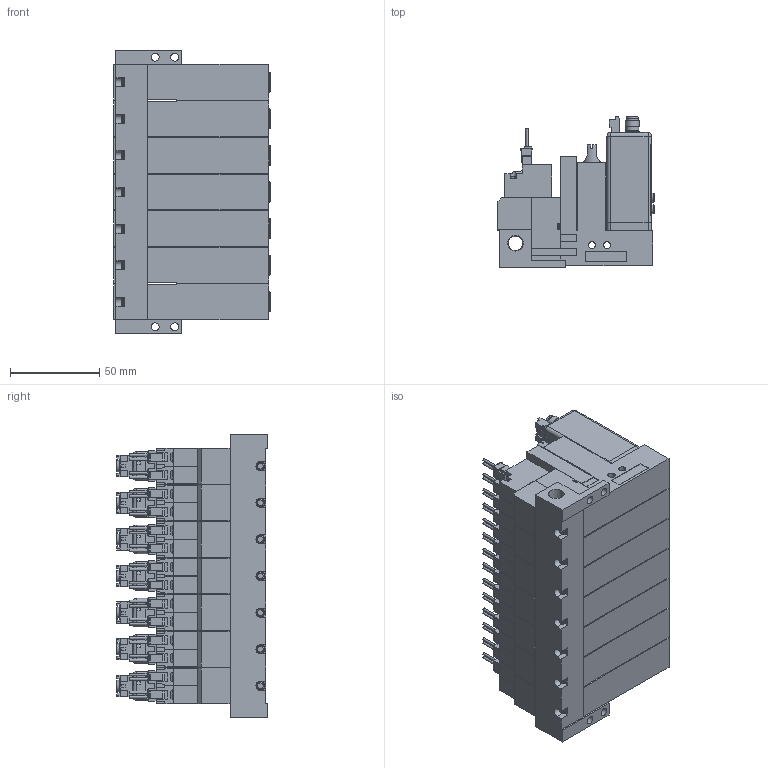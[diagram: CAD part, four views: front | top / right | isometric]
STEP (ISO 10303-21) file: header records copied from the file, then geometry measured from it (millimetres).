
FILE_DESCRIPTION(('STEP AP203'),'1');
FILE_NAME('22_22PL5BLR707.stp','2025-06-12T05:07:16',(' '),(' '),'Spatial InterOp 3D',' ',' ');
FILE_SCHEMA(('CONFIG_CONTROL_DESIGN'));
Length unit declared in the file: millimetre
Products named in the file (11): BMC22M※※※※22_22PL5BLR707; Solenoid valve B; Unit L; Base MR70R; MVS-202
Assembly tree (22 placements, depth 2):
  BMC22M※※※※22_22PL5BLR707
    Solenoid valve B  x7
    Unit L  x7
    Base MR70R
    MVS-202
    MVS-202
    MVS-202
    MVS-202
    MVS-202
    MVS-202
    MVS-202
Bounding box: 87.5 x 84.6 x 159 mm (x, y, z)
Volume: 672705.2 mm3; surface area: 202871.4 mm2
Topology: 22 solids, 50 shells, 5229 faces, 13611 edges, 8895 vertices
Faces by surface type: plane 4396, cylinder 649, cone 114, torus 42, sphere 28
Full cylindrical faces by diameter (mm): 1 x28, 1.4 x28, 1.5 x7, 2.5 x7, 3 x28, 3.5 x28, 3.6 x7, 4 x14, 4.134 x7, 4.5 x32, 4.8 x21, 5 x14, 5.2 x7, 5.8 x14, 6 x14, 6.5 x21, 6.6 x7, 7 x7, 7.2 x7, 7.9 x7, 8 x14, 8.279 x1
Entity records: 100449 total; most frequent: CARTESIAN_POINT 18071, ORIENTED_EDGE 16422, DIRECTION 16235, EDGE_CURVE 8211, LINE 6913, VECTOR 6913, VERTEX_POINT 5557, AXIS2_PLACEMENT_3D 4661
